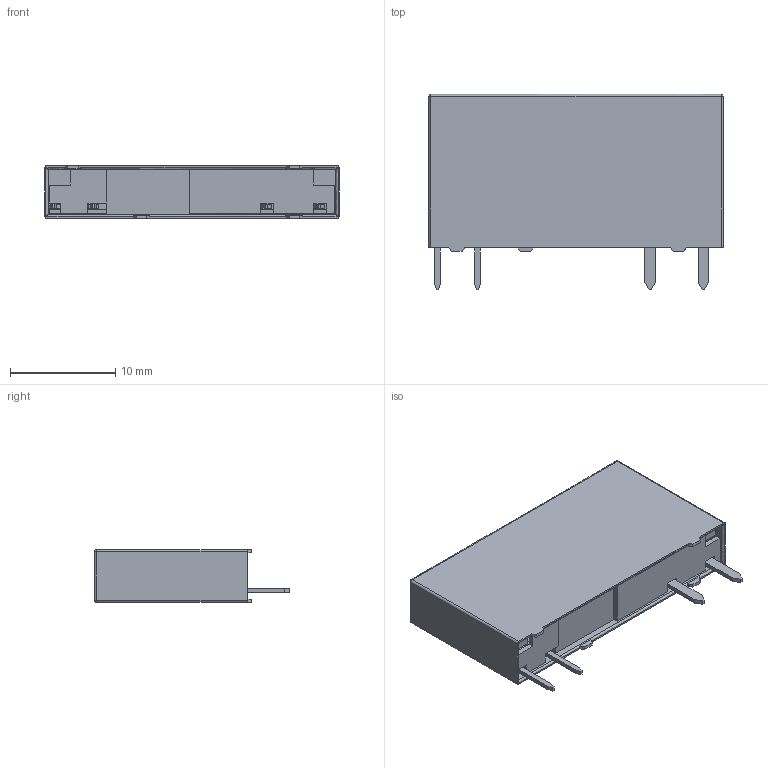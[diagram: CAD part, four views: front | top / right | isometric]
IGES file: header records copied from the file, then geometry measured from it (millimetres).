
Global section: file name: Filename.iges; native system: Open CASCADE 7.3; preprocessor: Open CASCADE IGES processor 7.3; date: 20201105.100655; units: millimetre
Bounding box: 27.9 x 18.52 x 4.99 mm (x, y, z)
Surface area: 3790 mm2 (no closed solid volume)
Topology: 0 solids, 0 shells, 181 faces, 1857 edges, 4628 vertices
Faces by surface type: plane 161, revolution 20
